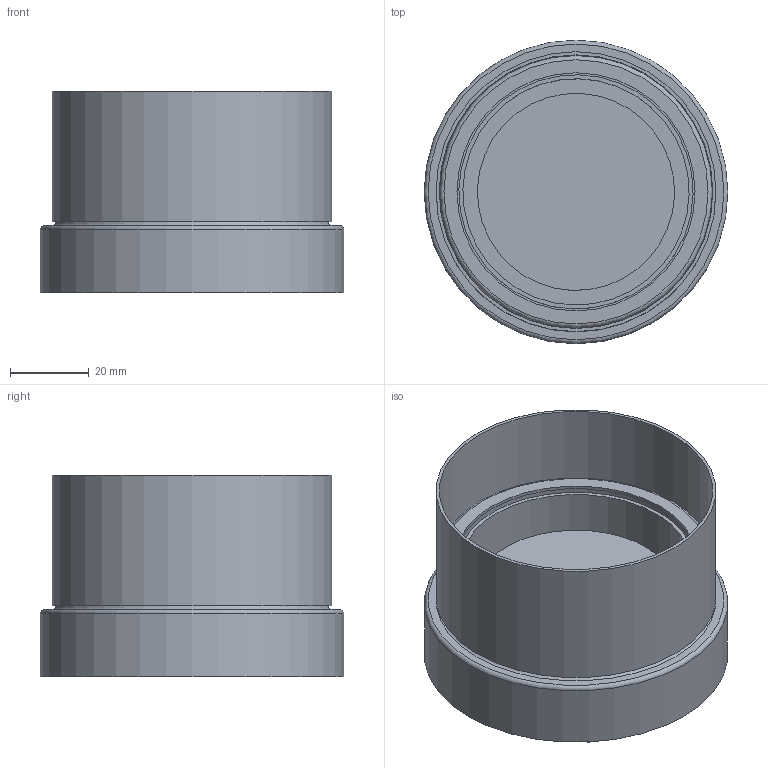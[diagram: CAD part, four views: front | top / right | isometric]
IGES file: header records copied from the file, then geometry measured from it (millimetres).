
Start section: SolidWorks IGES file using analytic representation for surfaces
Global section: file name: X:\PRODUKT\Modele 3D_WWW\_KOLEKCJE WWW\ECHO-8371-8372\ECHO-8371-8372.IGS; native system: SolidWorks 2021; preprocessor: SolidWorks 2021; author: gabriela.tworek; date: 220609.104114; units: millimetre
Bounding box: 77 x 77 x 51 mm (x, y, z)
Surface area: 50762.6 mm2 (no closed solid volume)
Topology: 0 solids, 0 shells, 34 faces, 83 edges, 64 vertices
Faces by surface type: revolution 19, bspline 15
